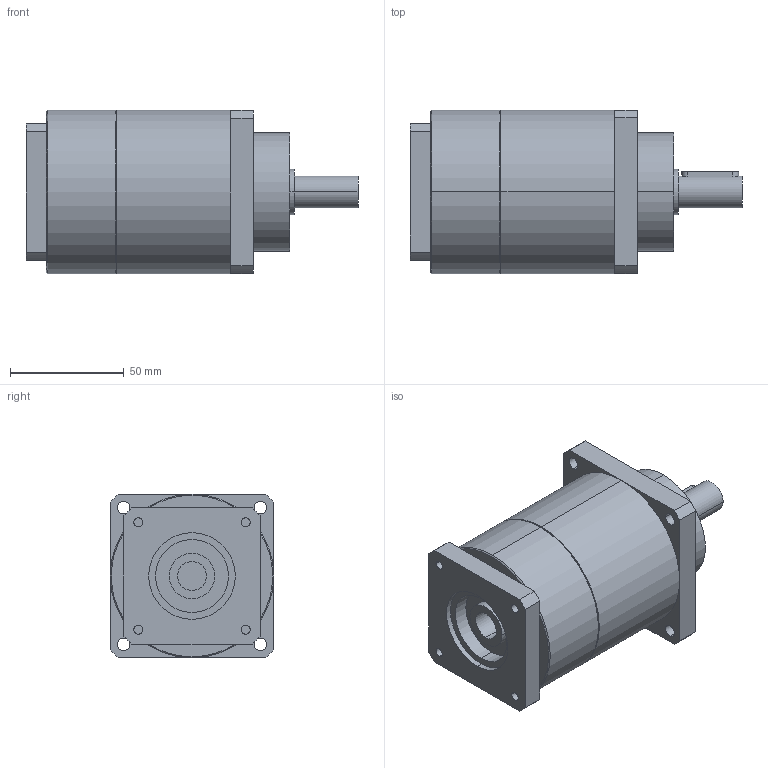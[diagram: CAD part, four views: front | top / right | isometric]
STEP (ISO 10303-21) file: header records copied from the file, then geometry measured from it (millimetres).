
FILE_DESCRIPTION(('CoCreate Modeling STEP Export'),'2;1');
FILE_NAME('GPT75_ig-9-12-16-20-25-28-35-40-50-70-100_14_B5T_12.7_P28.stp','2014-08-27T13:36:10',(''),(''),'CoCreate Modeling STEP processor for AP214 (Solid Model)','CoCreate Modeling 16.00C 25-Feb-2009 (C) Parametric Technology GmbH','');
FILE_SCHEMA(('AUTOMOTIVE_DESIGN { 1 0 10303 214 1 1 1 1 }'));
Length unit declared in the file: millimetre
Products named in the file (2): GPT75_ig-9-12-16-20-25-28-35-40-50-70-100_14_B5T_12.7_P28
Assembly tree (1 placements, depth 2):
  GPT75_ig-9-12-16-20-25-28-35-40-50-70-100_14_B5T_12.7_P28
    GPT75_ig-9-12-16-20-25-28-35-40-50-70-100_14_B5T_12.7_P28
Bounding box: 146 x 72 x 72 mm (x, y, z)
Volume: 440026.9 mm3; surface area: 41676.1 mm2
Topology: 1 solids, 1 shells, 88 faces, 210 edges, 137 vertices
Faces by surface type: cylinder 46, plane 38, cone 4
Entity records: 2592 total; most frequent: CARTESIAN_POINT 732, ORIENTED_EDGE 420, DIRECTION 326, EDGE_CURVE 210, VERTEX_POINT 137, AXIS2_PLACEMENT_3D 119, EDGE_LOOP 109, VECTOR 88
